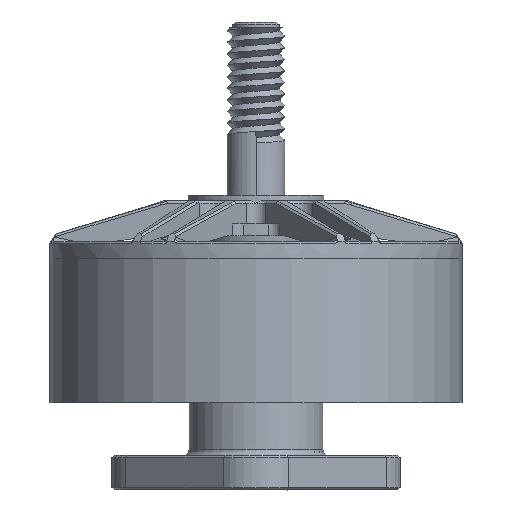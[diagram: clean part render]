
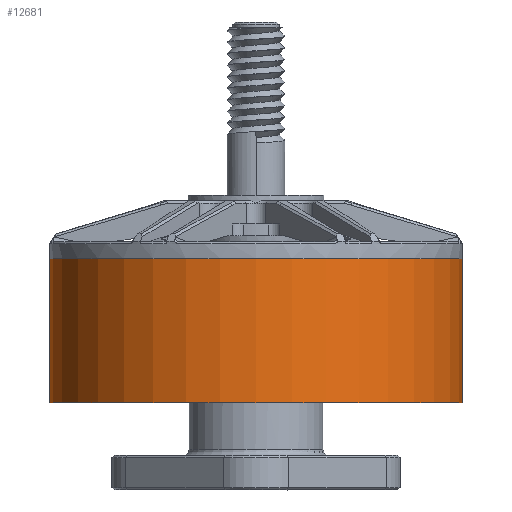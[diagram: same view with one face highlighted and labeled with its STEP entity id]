
A CAD part, left-side view. The second image highlights one B-rep face of the part: STEP entity #12681.
In plain terms, the highlighted cylindrical face has radius 17.85 mm (diameter 35.7 mm), a partial arc.
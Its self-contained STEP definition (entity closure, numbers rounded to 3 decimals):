
#12447=CARTESIAN_POINT('',(0.,0.,-12.5));
#12448=DIRECTION('',(0.,0.,1.));
#12449=DIRECTION('',(0.,1.,0.));
#12450=AXIS2_PLACEMENT_3D('',#12447,#12448,#12449);
#12462=DIRECTION('',(0.,0.,1.));
#12463=VECTOR('',#12462,12.5);
#12464=CARTESIAN_POINT('',(0.,-17.85,-12.5));
#12465=LINE('',#12464,#12463);
#12466=CARTESIAN_POINT('',(0.,0.,0.));
#12467=DIRECTION('',(0.,0.,-1.));
#12468=DIRECTION('',(0.,-1.,0.));
#12469=AXIS2_PLACEMENT_3D('',#12466,#12467,#12468);
#12486=DIRECTION('',(0.,0.,1.));
#12487=VECTOR('',#12486,12.5);
#12488=CARTESIAN_POINT('',(0.,17.85,-12.5));
#12489=LINE('',#12488,#12487);
#12522=CARTESIAN_POINT('',(0.,-17.85,-12.5));
#12523=CARTESIAN_POINT('',(0.,17.85,-12.5));
#12524=VERTEX_POINT('',#12522);
#12525=VERTEX_POINT('',#12523);
#12526=CARTESIAN_POINT('',(0.,17.85,0.));
#12527=CARTESIAN_POINT('',(0.,-17.85,0.));
#12528=VERTEX_POINT('',#12526);
#12529=VERTEX_POINT('',#12527);
#12670=CARTESIAN_POINT('',(0.,0.,20.35));
#12671=DIRECTION('',(0.,0.,-1.));
#12672=DIRECTION('',(0.,1.,0.));
#12673=AXIS2_PLACEMENT_3D('',#12670,#12671,#12672);
#12674=CYLINDRICAL_SURFACE('',#12673,17.85);
#12675=ORIENTED_EDGE('',*,*,#12659,.F.);
#12676=ORIENTED_EDGE('',*,*,#12649,.F.);
#12677=ORIENTED_EDGE('',*,*,#12629,.F.);
#12678=ORIENTED_EDGE('',*,*,#12646,.T.);
#12679=EDGE_LOOP('',(#12675,#12676,#12677,#12678));
#12680=FACE_OUTER_BOUND('',#12679,.F.);
#12681=ADVANCED_FACE('',(#12680),#12674,.T.);
#12451=CIRCLE('',#12450,17.85);
#12470=CIRCLE('',#12469,17.85);
#12629=EDGE_CURVE('',#12525,#12524,#12451,.T.);
#12646=EDGE_CURVE('',#12525,#12528,#12489,.T.);
#12649=EDGE_CURVE('',#12524,#12529,#12465,.T.);
#12659=EDGE_CURVE('',#12529,#12528,#12470,.T.);
